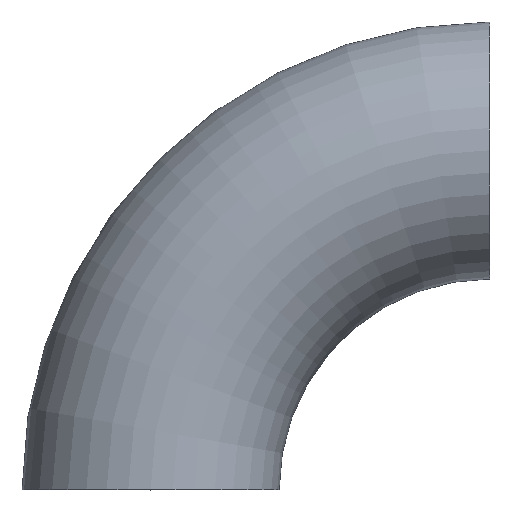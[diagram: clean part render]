
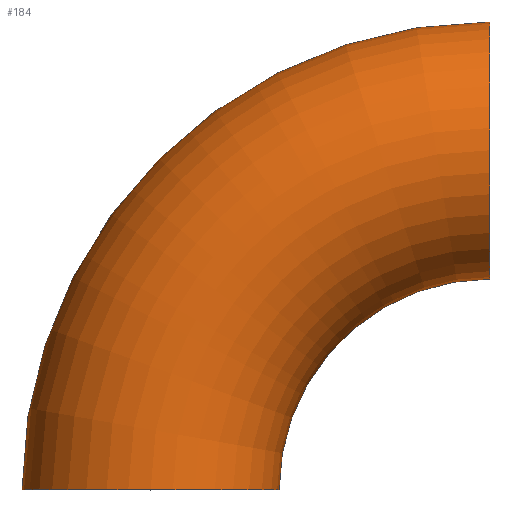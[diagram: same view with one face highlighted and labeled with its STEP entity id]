
A CAD part, top view. The second image highlights one B-rep face of the part: STEP entity #184.
In plain terms, the highlighted toroidal (fillet/blend) face has major radius 33 mm and minor radius 12.5 mm.
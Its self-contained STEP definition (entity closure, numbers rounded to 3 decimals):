
#1 = CIRCLE ( 'NONE', #37, 20.5 ) ;
#3 = CARTESIAN_POINT ( 'NONE',  ( 12.5, 0., 0. ) ) ;
#7 = DIRECTION ( 'NONE',  ( 0., 0., 1. ) ) ;
#17 = EDGE_CURVE ( 'NONE', #90, #188, #223, .T. ) ;
#24 = VERTEX_POINT ( 'NONE', #3 ) ;
#25 = CARTESIAN_POINT ( 'NONE',  ( 0., 0., 0. ) ) ;
#33 = EDGE_CURVE ( 'NONE', #188, #24, #1, .T. ) ;
#37 = AXIS2_PLACEMENT_3D ( 'NONE', #111, #212, #88 ) ;
#38 = ORIENTED_EDGE ( 'NONE', *, *, #62, .T. ) ;
#43 = AXIS2_PLACEMENT_3D ( 'NONE', #57, #7, #138 ) ;
#45 = CIRCLE ( 'NONE', #132, 12.5 ) ;
#46 = EDGE_LOOP ( 'NONE', ( #194, #38, #129, #120 ) ) ;
#57 = CARTESIAN_POINT ( 'NONE',  ( 33., 0., 0. ) ) ;
#62 = EDGE_CURVE ( 'NONE', #90, #162, #149, .T. ) ;
#70 = DIRECTION ( 'NONE',  ( 0., 0., 1. ) ) ;
#71 = AXIS2_PLACEMENT_3D ( 'NONE', #214, #237, #239 ) ;
#87 = FACE_OUTER_BOUND ( 'NONE', #46, .T. ) ;
#88 = DIRECTION ( 'NONE',  ( 1., 0., 0. ) ) ;
#90 = VERTEX_POINT ( 'NONE', #233 ) ;
#93 = TOROIDAL_SURFACE ( 'NONE', #71, 33., 12.5 ) ;
#111 = CARTESIAN_POINT ( 'NONE',  ( 33., 0., 0. ) ) ;
#120 = ORIENTED_EDGE ( 'NONE', *, *, #33, .F. ) ;
#129 = ORIENTED_EDGE ( 'NONE', *, *, #216, .T. ) ;
#131 = DIRECTION ( 'NONE',  ( 1., 0., 0. ) ) ;
#132 = AXIS2_PLACEMENT_3D ( 'NONE', #25, #158, #160 ) ;
#138 = DIRECTION ( 'NONE',  ( 1., 0., 0. ) ) ;
#149 = CIRCLE ( 'NONE', #43, 45.5 ) ;
#153 = CARTESIAN_POINT ( 'NONE',  ( 33., 33., 0. ) ) ;
#158 = DIRECTION ( 'NONE',  ( 0., 1., 0. ) ) ;
#159 = CARTESIAN_POINT ( 'NONE',  ( -12.5, 0., 0. ) ) ;
#160 = DIRECTION ( 'NONE',  ( 0., 0., 1. ) ) ;
#162 = VERTEX_POINT ( 'NONE', #159 ) ;
#184 = ADVANCED_FACE ( 'NONE', ( #87 ), #93, .T. ) ;
#188 = VERTEX_POINT ( 'NONE', #217 ) ;
#194 = ORIENTED_EDGE ( 'NONE', *, *, #17, .F. ) ;
#206 = AXIS2_PLACEMENT_3D ( 'NONE', #153, #131, #70 ) ;
#212 = DIRECTION ( 'NONE',  ( 0., 0., 1. ) ) ;
#214 = CARTESIAN_POINT ( 'NONE',  ( 33., 0., 0. ) ) ;
#216 = EDGE_CURVE ( 'NONE', #162, #24, #45, .T. ) ;
#217 = CARTESIAN_POINT ( 'NONE',  ( 33., 20.5, 0. ) ) ;
#223 = CIRCLE ( 'NONE', #206, 12.5 ) ;
#233 = CARTESIAN_POINT ( 'NONE',  ( 33., 45.5, 0. ) ) ;
#237 = DIRECTION ( 'NONE',  ( 0., 0., 1. ) ) ;
#239 = DIRECTION ( 'NONE',  ( 1., 0., 0. ) ) ;
